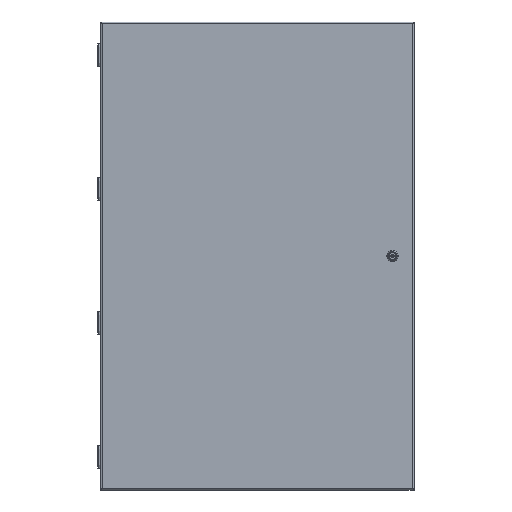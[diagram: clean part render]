
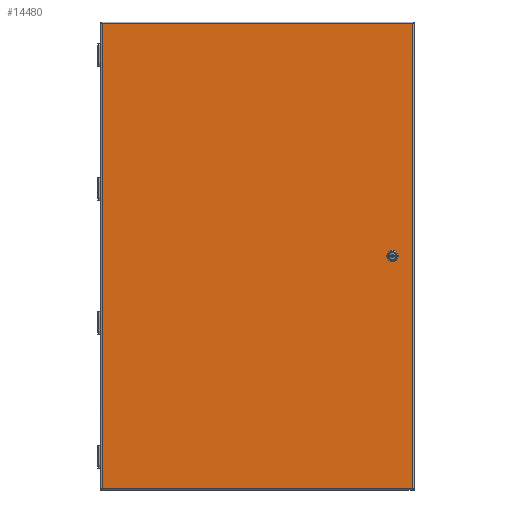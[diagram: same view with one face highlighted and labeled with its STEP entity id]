
A CAD part, top view. The second image highlights one B-rep face of the part: STEP entity #14480.
In plain terms, the highlighted planar face has unit normal (0, 0, 1) as drawn and (0, 1, 0) by its records, which use the part's own axes.
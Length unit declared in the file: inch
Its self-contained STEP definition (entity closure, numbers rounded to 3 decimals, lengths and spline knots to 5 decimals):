
#11577=DIRECTION('',(0.,0.,1.));
#11578=VECTOR('',#11577,24.151);
#11579=CARTESIAN_POINT('',(-18.0755,0.81,-12.0755));
#11580=LINE('',#11579,#11578);
#11661=CARTESIAN_POINT('',(0.,0.81,-10.495));
#11662=DIRECTION('',(0.,1.,0.));
#11663=DIRECTION('',(-0.475,0.,-0.88));
#11664=AXIS2_PLACEMENT_3D('',#11661,#11662,#11663);
#11669=DIRECTION('',(-1.,0.,0.));
#11670=VECTOR('',#11669,0.35623);
#11671=CARTESIAN_POINT('',(0.17812,0.81,-10.165));
#11672=LINE('',#11671,#11670);
#11676=CARTESIAN_POINT('',(0.,0.81,-10.495));
#11677=DIRECTION('',(0.,1.,0.));
#11678=DIRECTION('',(0.475,0.,0.88));
#11679=AXIS2_PLACEMENT_3D('',#11676,#11677,#11678);
#11684=DIRECTION('',(1.,0.,0.));
#11685=VECTOR('',#11684,0.35623);
#11686=CARTESIAN_POINT('',(-0.17812,0.81,-10.825));
#11687=LINE('',#11686,#11685);
#12087=DIRECTION('',(-1.,0.,0.));
#12088=VECTOR('',#12087,36.151);
#12089=CARTESIAN_POINT('',(18.0755,0.81,-12.0755));
#12090=LINE('',#12089,#12088);
#12173=DIRECTION('',(0.,0.,1.));
#12174=VECTOR('',#12173,24.151);
#12175=CARTESIAN_POINT('',(18.0755,0.81,-12.0755));
#12176=LINE('',#12175,#12174);
#12739=DIRECTION('',(-1.,0.,0.));
#12740=VECTOR('',#12739,36.151);
#12741=CARTESIAN_POINT('',(18.0755,0.81,12.0755));
#12742=LINE('',#12741,#12740);
#13778=CARTESIAN_POINT('',(18.0755,0.81,-12.0755));
#13779=CARTESIAN_POINT('',(-18.0755,0.81,-12.0755));
#13780=VERTEX_POINT('',#13778);
#13781=VERTEX_POINT('',#13779);
#13782=CARTESIAN_POINT('',(18.0755,0.81,12.0755));
#13783=CARTESIAN_POINT('',(-18.0755,0.81,12.0755));
#13784=VERTEX_POINT('',#13782);
#13785=VERTEX_POINT('',#13783);
#14082=CARTESIAN_POINT('',(-0.17812,0.81,-10.825));
#14083=CARTESIAN_POINT('',(-0.17812,0.81,-10.165));
#14084=VERTEX_POINT('',#14082);
#14085=VERTEX_POINT('',#14083);
#14086=CARTESIAN_POINT('',(0.17812,0.81,-10.825));
#14087=VERTEX_POINT('',#14086);
#14088=CARTESIAN_POINT('',(0.17812,0.81,-10.165));
#14089=VERTEX_POINT('',#14088);
#14456=CARTESIAN_POINT('',(18.1875,0.81,-12.1875));
#14457=DIRECTION('',(0.,1.,0.));
#14458=DIRECTION('',(-1.,0.,0.));
#14459=AXIS2_PLACEMENT_3D('',#14456,#14457,#14458);
#14460=PLANE('',#14459);
#14462=ORIENTED_EDGE('',*,*,#14461,.T.);
#14464=ORIENTED_EDGE('',*,*,#14463,.T.);
#14465=ORIENTED_EDGE('',*,*,#14446,.F.);
#14467=ORIENTED_EDGE('',*,*,#14466,.F.);
#14468=EDGE_LOOP('',(#14462,#14464,#14465,#14467));
#14469=FACE_OUTER_BOUND('',#14468,.F.);
#14471=ORIENTED_EDGE('',*,*,#14470,.T.);
#14473=ORIENTED_EDGE('',*,*,#14472,.F.);
#14475=ORIENTED_EDGE('',*,*,#14474,.T.);
#14477=ORIENTED_EDGE('',*,*,#14476,.F.);
#14478=EDGE_LOOP('',(#14471,#14473,#14475,#14477));
#14479=FACE_BOUND('',#14478,.F.);
#11665=CIRCLE('',#11664,0.375);
#11680=CIRCLE('',#11679,0.375);
#14446=EDGE_CURVE('',#13781,#13785,#11580,.T.);
#14461=EDGE_CURVE('',#13780,#13784,#12176,.T.);
#14463=EDGE_CURVE('',#13784,#13785,#12742,.T.);
#14466=EDGE_CURVE('',#13780,#13781,#12090,.T.);
#14470=EDGE_CURVE('',#14084,#14085,#11665,.T.);
#14472=EDGE_CURVE('',#14089,#14085,#11672,.T.);
#14474=EDGE_CURVE('',#14089,#14087,#11680,.T.);
#14476=EDGE_CURVE('',#14084,#14087,#11687,.T.);
#14480=ADVANCED_FACE('',(#14469,#14479),#14460,.T.);
